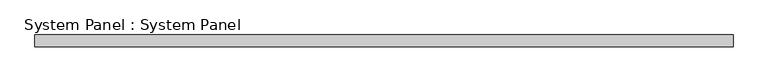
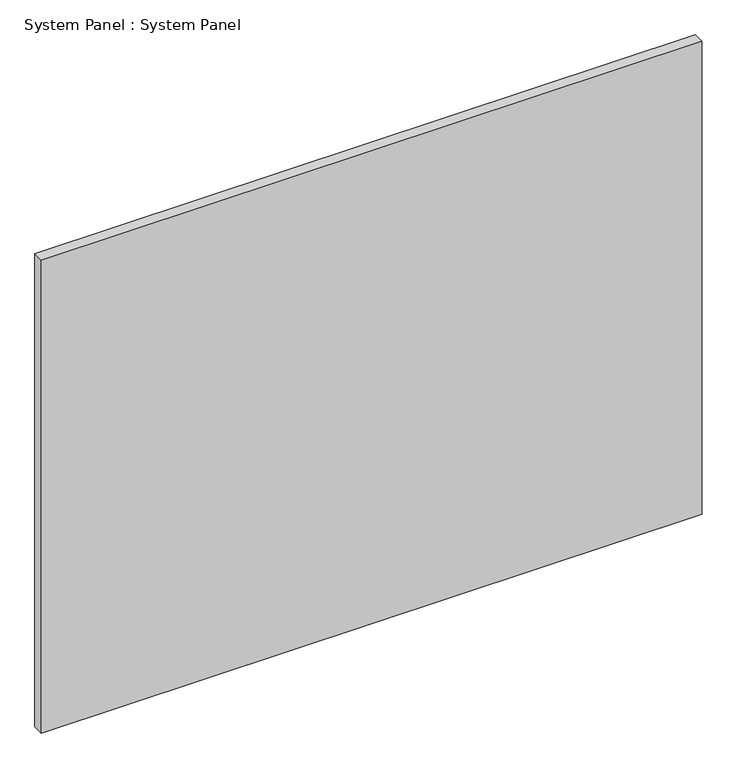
"""IFC4 building model written with IfcOpenShell, lengths in millimetres: plate geometry, System Panel : System Panel."""

from ifc_helpers import new_model, si_unit, origin, origin_with_axes, place, context, project, spatial, polyline, outline, extrude, source, transform, mapped, element, save


def system_panel_system_panel_d8a96c84(model_context):
    return source(origin(), model_context, "Body", "SweptSolid", [
        extrude(outline(polyline([(742.95, 19.05), (-742.95, 19.05), (-742.95, 44.45), (742.95, 44.45), (742.95, 19.05)])), origin_with_axes(), (0.0, 0.0, 1.0), 1123.95),
    ])


if __name__ == "__main__":
    model = new_model("IFC4")
    model_context = context("Model", 3, world=origin())
    ifc_project = project(units=[si_unit("LENGTHUNIT", "METRE", prefix="MILLI")], contexts=[model_context])
    site = spatial("IfcSite", under=ifc_project)
    building = spatial("IfcBuilding", under=site)
    placement = place(None, origin())
    system_panel_system_panel_shape = system_panel_system_panel_d8a96c84(model_context)
    element("IfcPlate", 1, ObjectType="System Panel : System Panel", at=placement, inside=building, context=model_context, shape_type="MappedRepresentation", body=[
        mapped(system_panel_system_panel_shape, transform((0.0, 0.0, 0.0), x_axis=(1.0, 0.0, 0.0), y_axis=(0.0, 1.0, 0.0), z_axis=(0.0, 0.0, 1.0))),
    ])
    save(model, "model.ifc")
